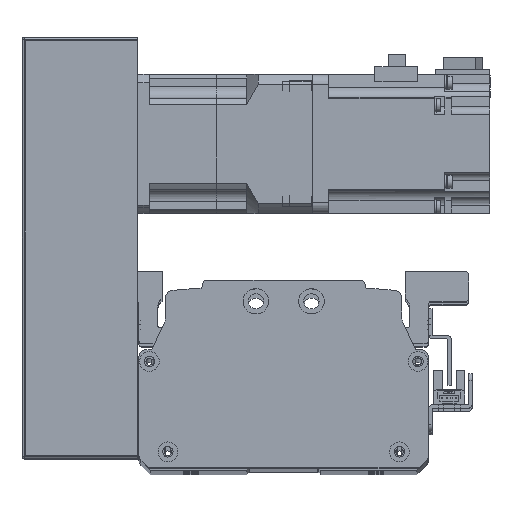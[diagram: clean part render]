
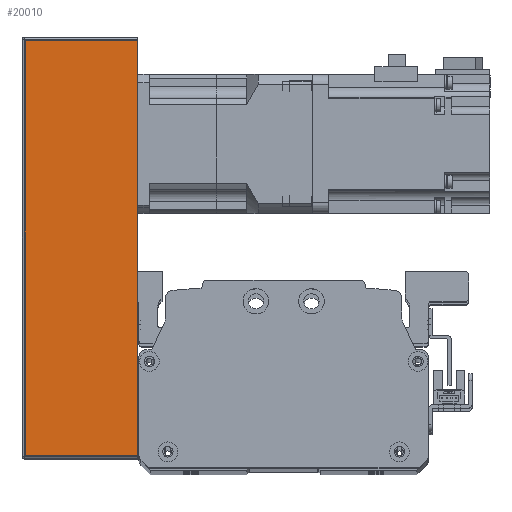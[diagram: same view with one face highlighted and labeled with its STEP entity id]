
A CAD part, top view. The second image highlights one B-rep face of the part: STEP entity #20010.
In plain terms, the highlighted planar face has unit normal (0, 0, 1) as drawn and (0, -1, 0) by its records, which use the part's own axes.
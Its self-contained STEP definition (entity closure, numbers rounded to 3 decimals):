
#604=PLANE('',#21998);
#1823=LINE('',#33040,#3447);
#1832=LINE('',#33079,#3456);
#1835=LINE('',#33089,#3459);
#1836=LINE('',#33091,#3460);
#3447=VECTOR('',#26722,10.);
#3456=VECTOR('',#26771,10.);
#3459=VECTOR('',#26788,10.);
#3460=VECTOR('',#26791,10.);
#5856=FACE_OUTER_BOUND('',#7332,.T.);
#7332=EDGE_LOOP('',(#17225,#17226,#17227,#17228));
#10235=VERTEX_POINT('',#33037);
#10236=VERTEX_POINT('',#33039);
#10245=VERTEX_POINT('',#33076);
#10246=VERTEX_POINT('',#33078);
#12695=EDGE_CURVE('',#10235,#10236,#1823,.T.);
#12715=EDGE_CURVE('',#10245,#10246,#1832,.T.);
#12721=EDGE_CURVE('',#10246,#10235,#1835,.T.);
#12722=EDGE_CURVE('',#10236,#10245,#1836,.T.);
#17225=ORIENTED_EDGE('',*,*,#12715,.F.);
#17226=ORIENTED_EDGE('',*,*,#12722,.F.);
#17227=ORIENTED_EDGE('',*,*,#12695,.F.);
#17228=ORIENTED_EDGE('',*,*,#12721,.F.);
#20010=ADVANCED_FACE('',(#5856),#604,.T.);
#21998=AXIS2_PLACEMENT_3D('',#33090,#26789,#26790);
#26722=DIRECTION('',(1.,0.,0.));
#26771=DIRECTION('',(-1.,0.,0.));
#26788=DIRECTION('',(0.,0.,1.));
#26789=DIRECTION('center_axis',(0.,-1.,0.));
#26790=DIRECTION('ref_axis',(1.,0.,0.));
#26791=DIRECTION('',(0.,0.,-1.));
#33037=CARTESIAN_POINT('',(-90.,-38.,25.));
#33039=CARTESIAN_POINT('',(90.,-38.,25.));
#33040=CARTESIAN_POINT('',(91.,-38.,25.));
#33076=CARTESIAN_POINT('',(90.,-38.,-24.));
#33078=CARTESIAN_POINT('',(-90.,-38.,-24.));
#33079=CARTESIAN_POINT('',(-45.5,-38.,-24.));
#33089=CARTESIAN_POINT('',(-90.,-38.,0.));
#33090=CARTESIAN_POINT('Origin',(-91.,-38.,0.));
#33091=CARTESIAN_POINT('',(90.,-38.,0.));
